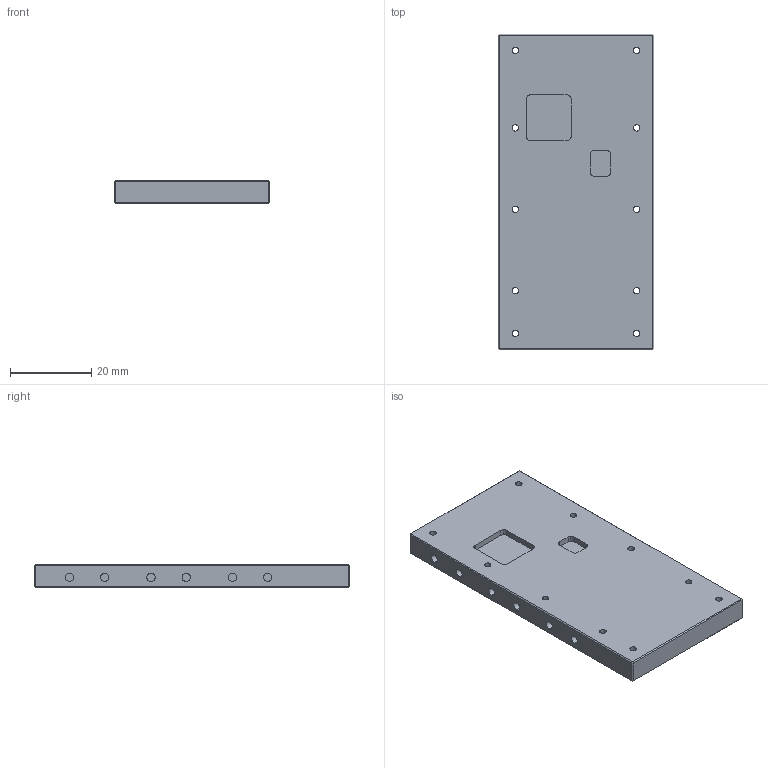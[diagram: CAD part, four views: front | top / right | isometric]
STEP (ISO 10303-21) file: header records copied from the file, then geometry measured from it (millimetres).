
FILE_DESCRIPTION(('STEP AP214'),'1');
FILE_NAME('230115baseplate4.stp','2023-01-15T08:27:30',('tanaka'),(' '),'Spatial InterOp 3D','CST ACIS InterOp Converter 2021',' ');
FILE_SCHEMA(('AUTOMOTIVE_DESIGN { 1 0 10303 214 1 1 1 1 }'));
Length unit declared in the file: millimetre
Products named in the file (1): component1|solid1
Bounding box: 38.3 x 77.5 x 5.85 mm (x, y, z)
Volume: 16533.4 mm3; surface area: 8128.7 mm2
Topology: 1 solids, 1 shells, 134 faces, 334 edges, 218 vertices
Faces by surface type: cylinder 76, plane 58
Entity records: 4113 total; most frequent: DIRECTION 766, CARTESIAN_POINT 687, ORIENTED_EDGE 668, EDGE_CURVE 334, AXIS2_PLACEMENT_3D 297, VERTEX_POINT 218, LINE 172, VECTOR 172
